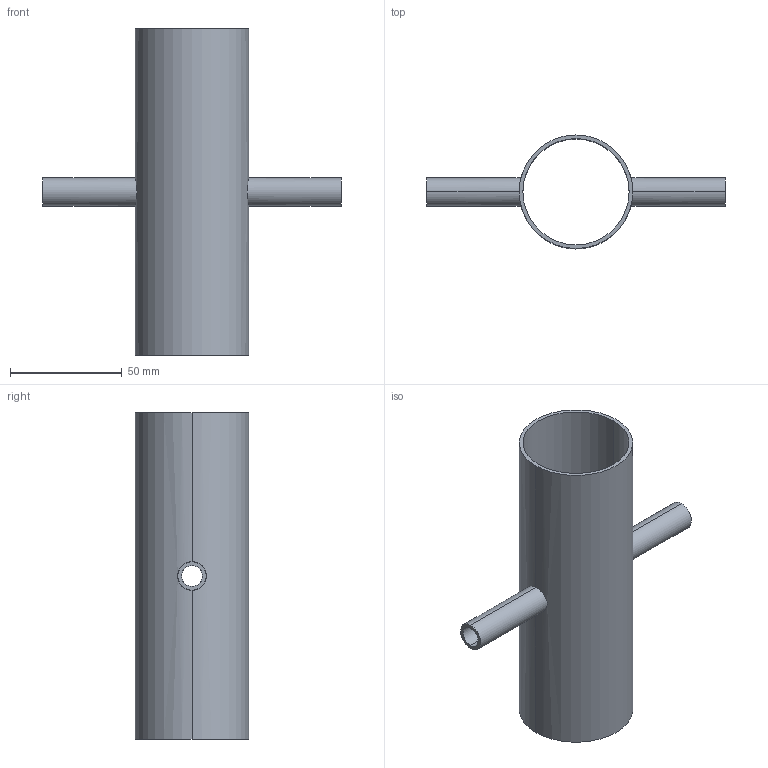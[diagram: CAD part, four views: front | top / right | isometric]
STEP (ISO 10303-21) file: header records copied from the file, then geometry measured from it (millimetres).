
FILE_DESCRIPTION (( 'STEP AP214' ), '1' );
FILE_NAME ('TE9RWWWW6L2.0x.5-...STEP', '2016-05-22T04:14:50', ( 'eran' ), ( '' ), 'SwSTEP 2.0', 'SolidWorks 2016', '' );
FILE_SCHEMA (( 'AUTOMOTIVE_DESIGN' ));
Length unit declared in the file: millimetre
Products named in the file (1): TE9RWWWW6L2.0x.5-..
Bounding box: 133.35 x 50.8 x 146.05 mm (x, y, z)
Volume: 41767.4 mm3; surface area: 51205.9 mm2
Topology: 1 solids, 1 shells, 16 faces, 40 edges, 24 vertices
Faces by surface type: cylinder 12, plane 4
Entity records: 810 total; most frequent: CARTESIAN_POINT 385, DIRECTION 82, ORIENTED_EDGE 80, EDGE_CURVE 40, AXIS2_PLACEMENT_3D 33, VERTEX_POINT 24, EDGE_LOOP 20, ADVANCED_FACE 16
